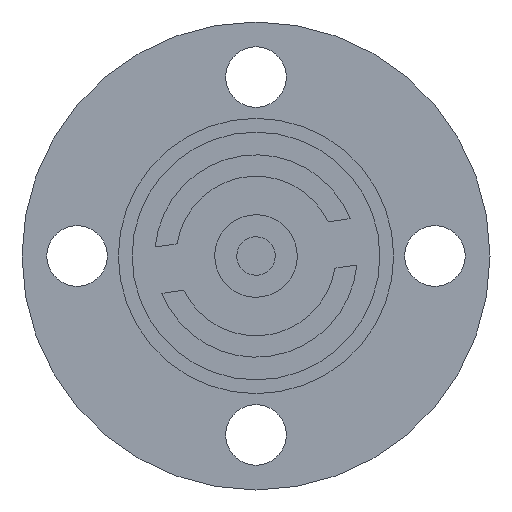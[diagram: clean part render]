
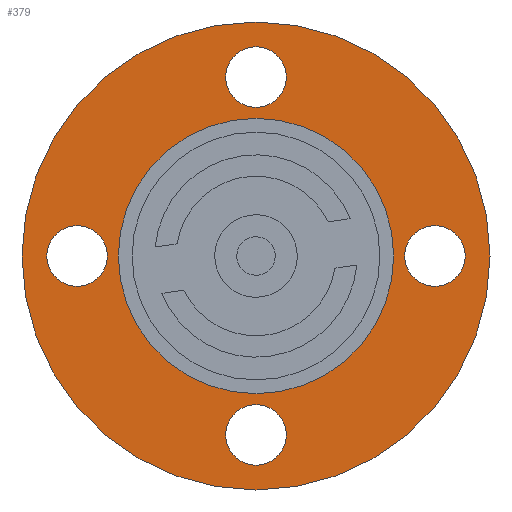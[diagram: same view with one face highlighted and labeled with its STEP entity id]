
A CAD part, left-side view. The second image highlights one B-rep face of the part: STEP entity #379.
In plain terms, the highlighted planar face has unit normal (-1, 0, 0).
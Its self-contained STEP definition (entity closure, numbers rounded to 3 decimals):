
#71=FACE_BOUND('',#128,.T.);
#72=FACE_BOUND('',#129,.T.);
#73=FACE_BOUND('',#130,.T.);
#74=FACE_BOUND('',#131,.T.);
#75=FACE_BOUND('',#132,.T.);
#90=FACE_OUTER_BOUND('',#127,.T.);
#127=EDGE_LOOP('',(#283));
#128=EDGE_LOOP('',(#284));
#129=EDGE_LOOP('',(#285));
#130=EDGE_LOOP('',(#286));
#131=EDGE_LOOP('',(#287));
#132=EDGE_LOOP('',(#288));
#162=CIRCLE('',#408,1.1);
#164=CIRCLE('',#411,1.1);
#166=CIRCLE('',#414,1.1);
#168=CIRCLE('',#417,1.1);
#171=CIRCLE('',#422,8.5);
#172=CIRCLE('',#424,5.);
#192=VERTEX_POINT('',#595);
#194=VERTEX_POINT('',#600);
#196=VERTEX_POINT('',#605);
#198=VERTEX_POINT('',#610);
#201=VERTEX_POINT('',#618);
#202=VERTEX_POINT('',#621);
#226=EDGE_CURVE('',#192,#192,#162,.T.);
#228=EDGE_CURVE('',#194,#194,#164,.T.);
#230=EDGE_CURVE('',#196,#196,#166,.T.);
#232=EDGE_CURVE('',#198,#198,#168,.T.);
#235=EDGE_CURVE('',#201,#201,#171,.T.);
#236=EDGE_CURVE('',#202,#202,#172,.T.);
#283=ORIENTED_EDGE('',*,*,#235,.T.);
#284=ORIENTED_EDGE('',*,*,#226,.T.);
#285=ORIENTED_EDGE('',*,*,#228,.T.);
#286=ORIENTED_EDGE('',*,*,#230,.T.);
#287=ORIENTED_EDGE('',*,*,#232,.T.);
#288=ORIENTED_EDGE('',*,*,#236,.F.);
#344=PLANE('',#423);
#379=ADVANCED_FACE('',(#90,#71,#72,#73,#74,#75),#344,.T.);
#408=AXIS2_PLACEMENT_3D('',#596,#475,#476);
#411=AXIS2_PLACEMENT_3D('',#601,#481,#482);
#414=AXIS2_PLACEMENT_3D('',#606,#487,#488);
#417=AXIS2_PLACEMENT_3D('',#611,#493,#494);
#422=AXIS2_PLACEMENT_3D('',#619,#503,#504);
#423=AXIS2_PLACEMENT_3D('',#620,#505,#506);
#424=AXIS2_PLACEMENT_3D('',#622,#507,#508);
#475=DIRECTION('center_axis',(1.,0.,0.));
#476=DIRECTION('ref_axis',(0.,1.,0.));
#481=DIRECTION('center_axis',(1.,0.,0.));
#482=DIRECTION('ref_axis',(0.,0.,1.));
#487=DIRECTION('center_axis',(1.,0.,0.));
#488=DIRECTION('ref_axis',(0.,-1.,0.));
#493=DIRECTION('center_axis',(1.,0.,0.));
#494=DIRECTION('ref_axis',(0.,0.,-1.));
#503=DIRECTION('center_axis',(-1.,0.,0.));
#504=DIRECTION('ref_axis',(0.,0.,1.));
#505=DIRECTION('center_axis',(-1.,0.,0.));
#506=DIRECTION('ref_axis',(0.,0.,1.));
#507=DIRECTION('center_axis',(-1.,0.,0.));
#508=DIRECTION('ref_axis',(0.,0.,1.));
#595=CARTESIAN_POINT('',(-2.,-1.1,6.5));
#596=CARTESIAN_POINT('Origin',(-2.,0.,6.5));
#600=CARTESIAN_POINT('',(-2.,-6.5,-1.1));
#601=CARTESIAN_POINT('Origin',(-2.,-6.5,0.));
#605=CARTESIAN_POINT('',(-2.,1.1,-6.5));
#606=CARTESIAN_POINT('Origin',(-2.,0.,-6.5));
#610=CARTESIAN_POINT('',(-2.,6.5,1.1));
#611=CARTESIAN_POINT('Origin',(-2.,6.5,0.));
#618=CARTESIAN_POINT('',(-2.,0.,8.5));
#619=CARTESIAN_POINT('Origin',(-2.,0.,0.));
#620=CARTESIAN_POINT('Origin',(-2.,0.,6.75));
#621=CARTESIAN_POINT('',(-2.,0.,5.));
#622=CARTESIAN_POINT('Origin',(-2.,0.,0.));
